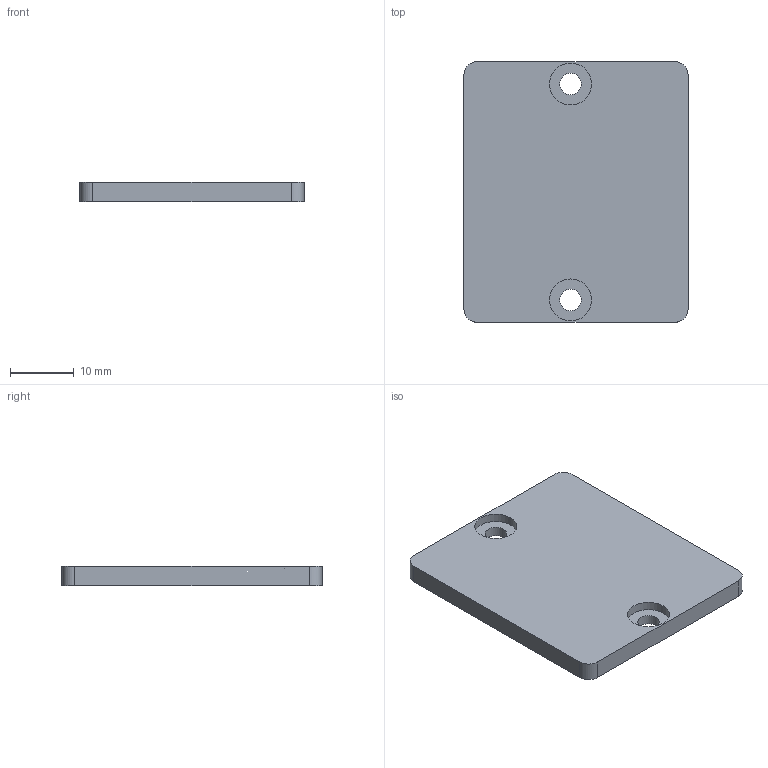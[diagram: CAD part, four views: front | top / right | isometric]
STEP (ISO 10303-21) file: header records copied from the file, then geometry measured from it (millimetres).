
FILE_DESCRIPTION(/* description */ ('Lightweight BRep snapshot from recovered OrionV2; original feature history remains in the preserved master. Packaging draft.'),/* implementation_level */ '2;1');
FILE_NAME(/* name */ '09 Shoulder service cover (1).step',/* time_stamp */ '2026-10-02T18:55:05+01:00',/* author */ (''),/* organization */ (''),/* preprocessor_version */ 'ST-DEVELOPER v20.2',/* originating_system */ 'Autodesk Translation Framework v15.15.0.0',/* authorisation */ '');
FILE_SCHEMA (('AUTOMOTIVE_DESIGN { 1 0 10303 214 3 1 1 }'));
Length unit declared in the file: millimetre
Products named in the file (1): 2026-10-02-18-55-05-192
Bounding box: 35.3 x 41 x 3 mm (x, y, z)
Volume: 4206.8 mm3; surface area: 3391.2 mm2
Topology: 1 solids, 1 shells, 16 faces, 36 edges, 24 vertices
Faces by surface type: plane 8, cylinder 8
Full cylindrical faces by diameter (mm): 3.4 x2, 6.6 x2
Entity records: 497 total; most frequent: DIRECTION 86, CARTESIAN_POINT 77, ORIENTED_EDGE 72, EDGE_CURVE 36, AXIS2_PLACEMENT_3D 33, VERTEX_POINT 24, EDGE_LOOP 22, LINE 20
